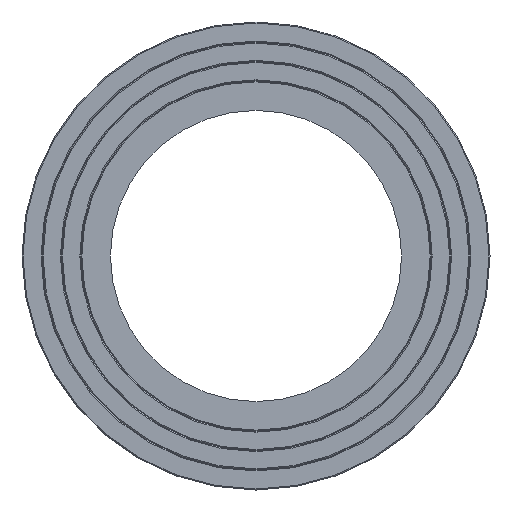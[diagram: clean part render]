
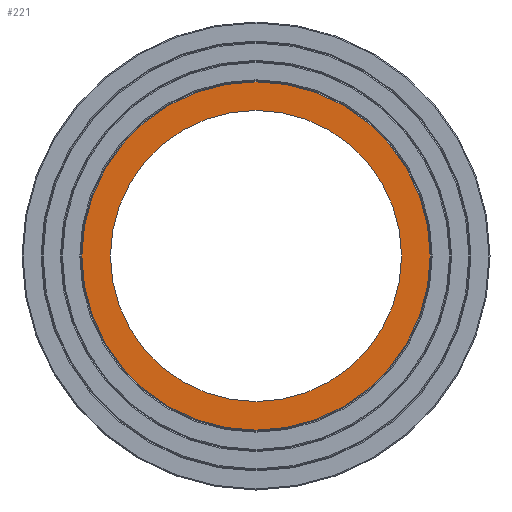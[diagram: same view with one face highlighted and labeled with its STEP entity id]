
A CAD part, left-side view. The second image highlights one B-rep face of the part: STEP entity #221.
In plain terms, the highlighted planar face has unit normal (-1, 0, 0).
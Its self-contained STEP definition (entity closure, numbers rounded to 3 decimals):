
#36=ORIENTED_EDGE('',*,*,#76,.F.);
#37=ORIENTED_EDGE('',*,*,#77,.T.);
#76=EDGE_CURVE('',#96,#96,#116,.T.);
#77=EDGE_CURVE('',#97,#97,#117,.T.);
#96=VERTEX_POINT('',#383);
#97=VERTEX_POINT('',#385);
#116=CIRCLE('',#257,217.7);
#117=CIRCLE('',#258,260.5);
#136=EDGE_LOOP('',(#36));
#137=EDGE_LOOP('',(#37));
#176=FACE_BOUND('',#136,.T.);
#177=FACE_BOUND('',#137,.T.);
#215=PLANE('',#256);
#221=ADVANCED_FACE('',(#176,#177),#215,.F.);
#256=AXIS2_PLACEMENT_3D('',#381,#301,#302);
#257=AXIS2_PLACEMENT_3D('',#382,#303,#304);
#258=AXIS2_PLACEMENT_3D('',#384,#305,#306);
#301=DIRECTION('',(1.,0.,0.));
#302=DIRECTION('',(0.,0.,-1.));
#303=DIRECTION('',(-1.,0.,0.));
#304=DIRECTION('',(0.,0.,1.));
#305=DIRECTION('',(-1.,0.,0.));
#306=DIRECTION('',(0.,0.,1.));
#381=CARTESIAN_POINT('',(0.,0.,350.));
#382=CARTESIAN_POINT('',(0.,0.,0.));
#383=CARTESIAN_POINT('',(0.,0.,217.7));
#384=CARTESIAN_POINT('',(0.,0.,0.));
#385=CARTESIAN_POINT('',(0.,0.,260.5));
